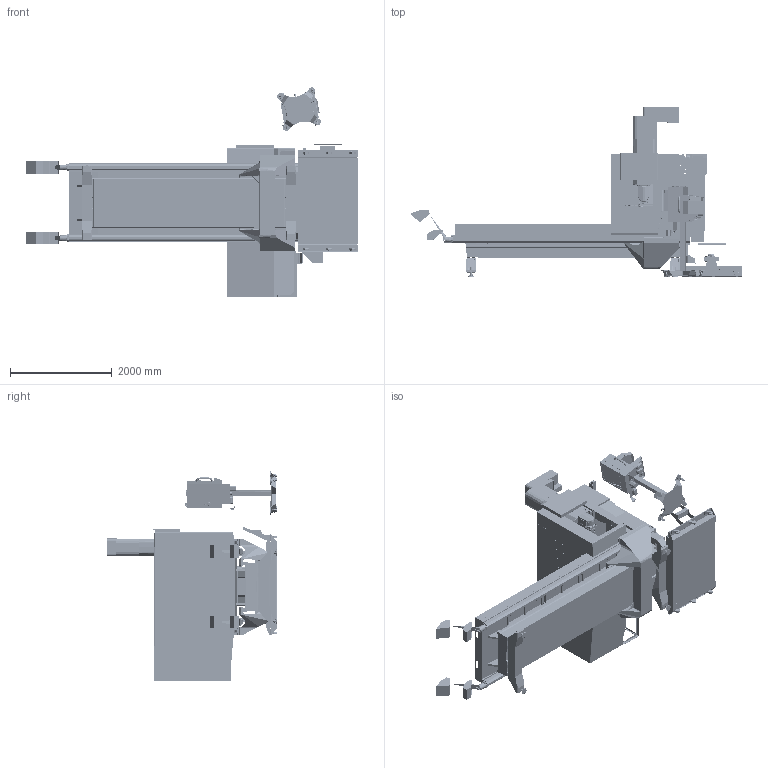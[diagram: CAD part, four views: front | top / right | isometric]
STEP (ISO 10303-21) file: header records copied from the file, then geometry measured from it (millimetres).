
FILE_DESCRIPTION (( 'STEP AP203' ), '1' );
FILE_NAME ('GM-1-5AX.STEP', '2026-07-01T14:14:08', ( '' ), ( '' ), 'SwSTEP 2.0', 'SolidWorks 2025', '' );
FILE_SCHEMA (( 'CONFIG_CONTROL_DESIGN' ));
Products named in the file (20): Spindle Head; Standard Table; 30 Pocket Toolchanger; GM-1-5AX; Coolant Tank; gm-1-5ax_Optional_Steel Table Metric; Anchor Pattern; Base; Chip Guards; gm-1-5ax_Optional_Steel Table Inch; Electrical Cabinets; Enclosure; X-axis Bridge; Y-axis Saddle; Standard Chip Auger; Control Panel; Leveling pads; Optional Tall Chip Chutes; Saddle; Curtains
Assembly tree (19 placements, depth 2):
  GM-1-5AX
    Base
    Enclosure
    Electrical Cabinets
    Control Panel
    Coolant Tank
    Leveling pads
    Saddle
    Chip Guards
    Standard Table
    X-axis Bridge
    Curtains
    30 Pocket Toolchanger
    Y-axis Saddle
    Spindle Head
    Standard Chip Auger
    Optional Tall Chip Chutes
    Anchor Pattern
    gm-1-5ax_Optional_Steel Table Inch
    gm-1-5ax_Optional_Steel Table Metric
Bounding box: 6522.36 x 3343.54 x 4115.83 mm (x, y, z)
Topology: 153 solids, 168 shells, 21997 faces, 52270 edges, 30911 vertices
Faces by surface type: plane 8392, cylinder 7428, cone 4155, bspline 1106, torus 747, sphere 169
Entity records: 676779 total; most frequent: CARTESIAN_POINT 174214, DIRECTION 107552, ORIENTED_EDGE 100956, EDGE_CURVE 50478, AXIS2_PLACEMENT_3D 39596, VERTEX_POINT 30911, VECTOR 28360, LINE 28360
